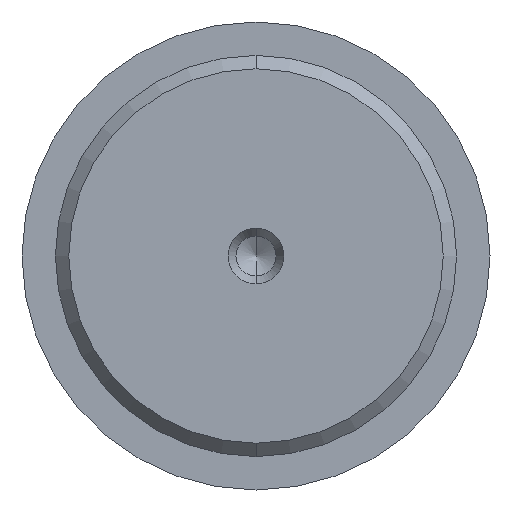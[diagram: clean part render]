
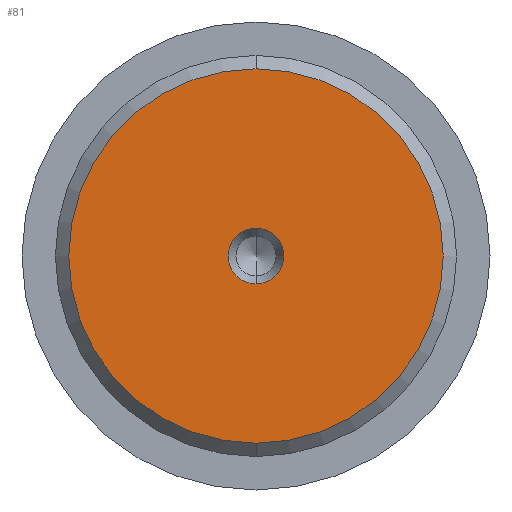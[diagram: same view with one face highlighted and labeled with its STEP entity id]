
A CAD part, left-side view. The second image highlights one B-rep face of the part: STEP entity #81.
In plain terms, the highlighted free-form (B-spline) face has degree [1, 1] with [2, 2] control points.
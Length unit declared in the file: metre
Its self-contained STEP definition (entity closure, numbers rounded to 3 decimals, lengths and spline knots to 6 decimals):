
#81 = ADVANCED_FACE( '', ( #143, #144 ), #145, .F. );
#143 = FACE_BOUND( '', #267, .T. );
#144 = FACE_OUTER_BOUND( '', #268, .T. );
#145 = B_SPLINE_SURFACE_WITH_KNOTS( '', 1, 1, ( ( #269, #270 ), ( #271, #272 ) ), .UNSPECIFIED., .F., .F., .F., ( 2, 2 ), ( 2, 2 ), ( 0., 1. ), ( 0., 1. ), .UNSPECIFIED. );
#267 = EDGE_LOOP( '', ( #729, #730 ) );
#268 = EDGE_LOOP( '', ( #731, #732 ) );
#269 = CARTESIAN_POINT( '', ( 0., -0.014168, 0.014168 ) );
#270 = CARTESIAN_POINT( '', ( 0., 0.014168, 0.014168 ) );
#271 = CARTESIAN_POINT( '', ( 0., -0.014168, -0.014168 ) );
#272 = CARTESIAN_POINT( '', ( 0., 0.014168, -0.014168 ) );
#729 = ORIENTED_EDGE( '', *, *, #1073, .F. );
#730 = ORIENTED_EDGE( '', *, *, #1074, .F. );
#731 = ORIENTED_EDGE( '', *, *, #1072, .T. );
#732 = ORIENTED_EDGE( '', *, *, #1066, .T. );
#1066 = EDGE_CURVE( '', #1179, #1180, #1181, .F. );
#1072 = EDGE_CURVE( '', #1180, #1179, #1189, .F. );
#1073 = EDGE_CURVE( '', #1190, #1191, #1192, .T. );
#1074 = EDGE_CURVE( '', #1191, #1190, #1193, .T. );
#1179 = VERTEX_POINT( '', #1355 );
#1180 = VERTEX_POINT( '', #1356 );
#1181 = CIRCLE( '', #1357, 0.014 );
#1189 = CIRCLE( '', #1367, 0.014 );
#1190 = VERTEX_POINT( '', #1368 );
#1191 = VERTEX_POINT( '', #1369 );
#1192 = CIRCLE( '', #1370, 0.002077 );
#1193 = CIRCLE( '', #1371, 0.002077 );
#1355 = CARTESIAN_POINT( '', ( 0., 0., -0.014 ) );
#1356 = CARTESIAN_POINT( '', ( 0., 0., 0.014 ) );
#1357 = AXIS2_PLACEMENT_3D( '', #1582, #1583, #1584 );
#1367 = AXIS2_PLACEMENT_3D( '', #1596, #1597, #1598 );
#1368 = CARTESIAN_POINT( '', ( 0., 0., -0.002077 ) );
#1369 = CARTESIAN_POINT( '', ( 0., 0., 0.002077 ) );
#1370 = AXIS2_PLACEMENT_3D( '', #1599, #1600, #1601 );
#1371 = AXIS2_PLACEMENT_3D( '', #1602, #1603, #1604 );
#1582 = CARTESIAN_POINT( '', ( 0., 0., 0. ) );
#1583 = DIRECTION( '', ( 1., 0., 0. ) );
#1584 = DIRECTION( '', ( 0., 0., -1. ) );
#1596 = CARTESIAN_POINT( '', ( 0., 0., 0. ) );
#1597 = DIRECTION( '', ( 1., 0., 0. ) );
#1598 = DIRECTION( '', ( 0., 0., -1. ) );
#1599 = CARTESIAN_POINT( '', ( 0., 0., 0. ) );
#1600 = DIRECTION( '', ( -1., 0., 0. ) );
#1601 = DIRECTION( '', ( 0., 0., 1. ) );
#1602 = CARTESIAN_POINT( '', ( 0., 0., 0. ) );
#1603 = DIRECTION( '', ( -1., 0., 0. ) );
#1604 = DIRECTION( '', ( 0., 0., 1. ) );
